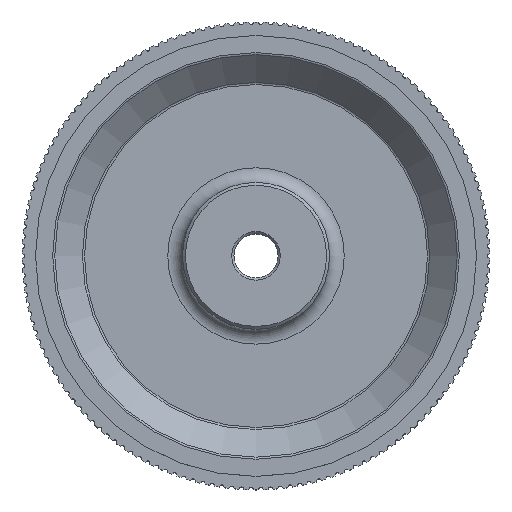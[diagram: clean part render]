
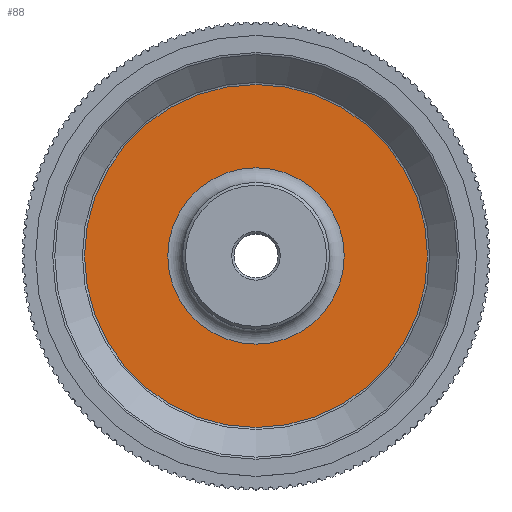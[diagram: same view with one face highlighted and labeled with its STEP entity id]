
A CAD part, top view. The second image highlights one B-rep face of the part: STEP entity #88.
In plain terms, the highlighted planar face has unit normal (0, 0, 1).
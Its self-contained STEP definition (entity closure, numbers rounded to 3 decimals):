
#88 = ADVANCED_FACE( '', ( #756, #757 ), #758, .T. );
#756 = FACE_BOUND( '', #2077, .T. );
#757 = FACE_OUTER_BOUND( '', #2078, .T. );
#758 = PLANE( '', #2079 );
#2077 = EDGE_LOOP( '', ( #4636 ) );
#2078 = EDGE_LOOP( '', ( #4637 ) );
#2079 = AXIS2_PLACEMENT_3D( '', #4638, #4639, #4640 );
#4636 = ORIENTED_EDGE( '', *, *, #10215, .T. );
#4637 = ORIENTED_EDGE( '', *, *, #10216, .F. );
#4638 = CARTESIAN_POINT( '', ( 0., 23.334, 8. ) );
#4639 = DIRECTION( '', ( 0., 0., 1. ) );
#4640 = DIRECTION( '', ( 1., 0., 0. ) );
#10215 = EDGE_CURVE( '', #13287, #13287, #13288, .T. );
#10216 = EDGE_CURVE( '', #13289, #13289, #13290, .T. );
#13287 = VERTEX_POINT( '', #17104 );
#13288 = CIRCLE( '', #17105, 12. );
#13289 = VERTEX_POINT( '', #17106 );
#13290 = CIRCLE( '', #17107, 23.334 );
#17104 = CARTESIAN_POINT( '', ( -12., 0., 8. ) );
#17105 = AXIS2_PLACEMENT_3D( '', #20810, #20811, #20812 );
#17106 = CARTESIAN_POINT( '', ( -23.334, 0., 8. ) );
#17107 = AXIS2_PLACEMENT_3D( '', #20813, #20814, #20815 );
#20810 = CARTESIAN_POINT( '', ( 0., 0., 8. ) );
#20811 = DIRECTION( '', ( 0., 0., -1. ) );
#20812 = DIRECTION( '', ( -1., 0., 0. ) );
#20813 = CARTESIAN_POINT( '', ( 0., 0., 8. ) );
#20814 = DIRECTION( '', ( 0., 0., -1. ) );
#20815 = DIRECTION( '', ( -1., 0., 0. ) );
